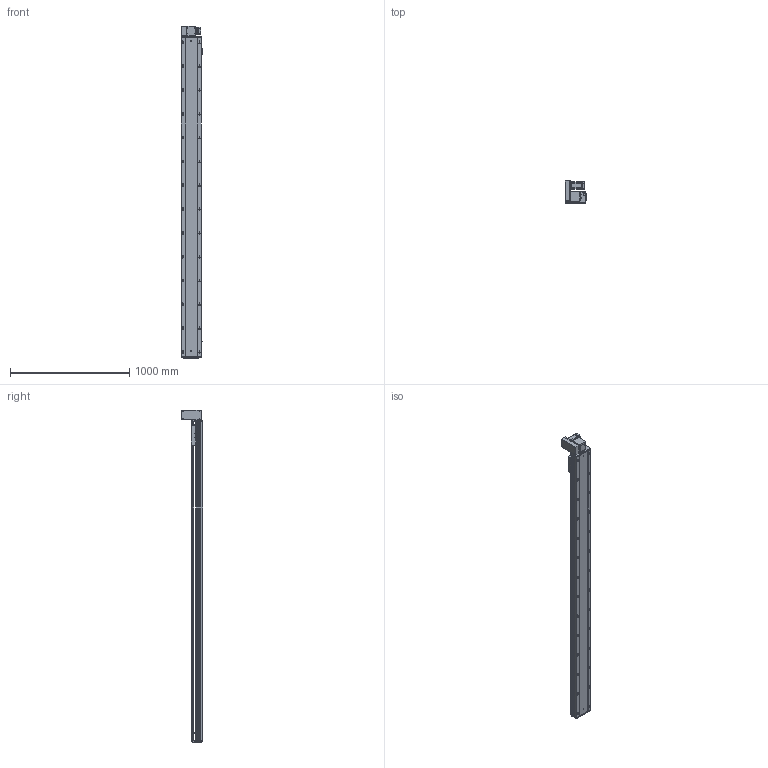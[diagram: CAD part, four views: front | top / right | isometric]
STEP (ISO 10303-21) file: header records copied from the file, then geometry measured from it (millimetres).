
FILE_DESCRIPTION (( 'STEP AP203' ), '1' );
FILE_NAME ('RY170-T-300-UL-P400W.SLDASM_2400.step', '2021-03-02T02:15:02', ( '盈信电脑' ), ( '东莞市道滘镇水果街19号' ), 'SwSTEP 2.0', 'SolidWorks 2012', '' );
FILE_SCHEMA (( 'CONFIG_CONTROL_DESIGN' ));
Length unit declared in the file: millimetre
Products named in the file (18): RY170-T-300-UL-P400W.SLDASM_2400; RY170-T蹟翐M4; 15; RY170同步轮电机安装板(400W); RY170肮祭謫萇儂欶; 滅袉蝶18-10; RY170-T肮祭謫裔啣; RY120-T主同步轮轴承压盖; RY170-T肮祭湍揤踡輸2; RY170翋肮祭謫釱; RY170肮祭謫ヶ裔啣; RY170-T肮祭湍揤踡輸1; RY170外置感应片(200共用）; RY170綴裔啣; RY170-T-300肮祭謫倰第裔啣-DL_2400; 覜茼ん672; RY170-T-300肮祭謫倰第菁釱-DL_2400; RY170肮祭湍臏賑輸
Assembly tree (20 placements, depth 2):
  RY170-T-300-UL-P400W.SLDASM_2400
    RY170-T-300肮祭謫倰第菁釱-DL_2400
    RY170肮祭湍臏賑輸
    RY170-T-300肮祭謫倰第裔啣-DL_2400
    RY170綴裔啣
    覜茼ん672  x3
    RY170外置感应片(200共用）
    RY170肮祭謫ヶ裔啣
    RY170翋肮祭謫釱
    RY170-T肮祭湍揤踡輸1
    RY170-T肮祭湍揤踡輸2
    RY170-T肮祭謫裔啣
    滅袉蝶18-10  x2
    RY120-T主同步轮轴承压盖
    RY170肮祭謫萇儂欶
    RY170同步轮电机安装板(400W)
    RY170-T蹟翐M4
    15
Bounding box: 183.7 x 184 x 2788 mm (x, y, z)
Volume: 12713319.7 mm3; surface area: 4389467.2 mm2
Topology: 20 solids, 20 shells, 2945 faces, 8342 edges, 5293 vertices
Faces by surface type: cylinder 1424, plane 1159, cone 332, bspline 30
Entity records: 96056 total; most frequent: CARTESIAN_POINT 22739, ORIENTED_EDGE 15136, DIRECTION 14648, EDGE_CURVE 7568, AXIS2_PLACEMENT_3D 5224, VERTEX_POINT 4961, LINE 4200, VECTOR 4200
